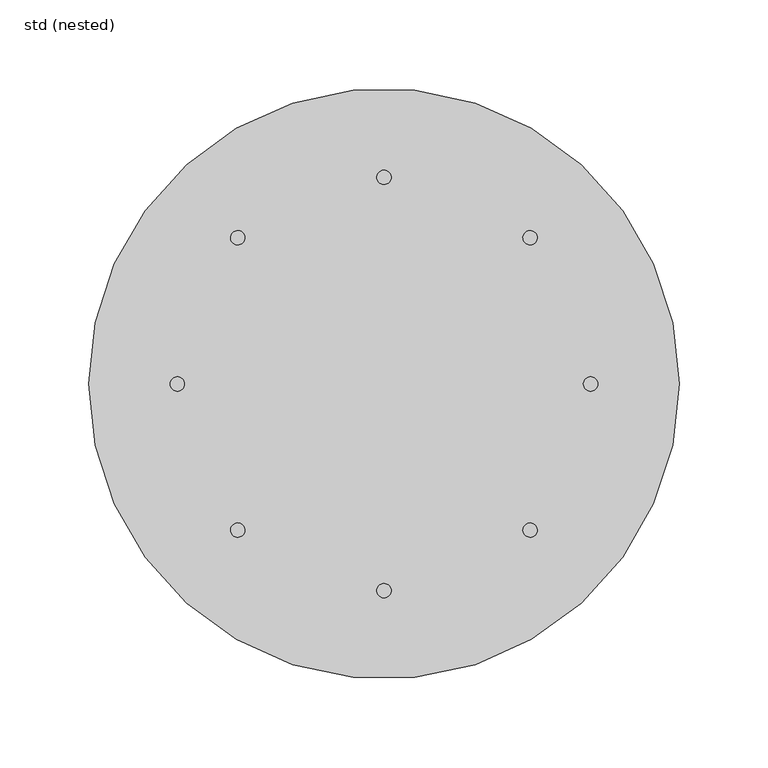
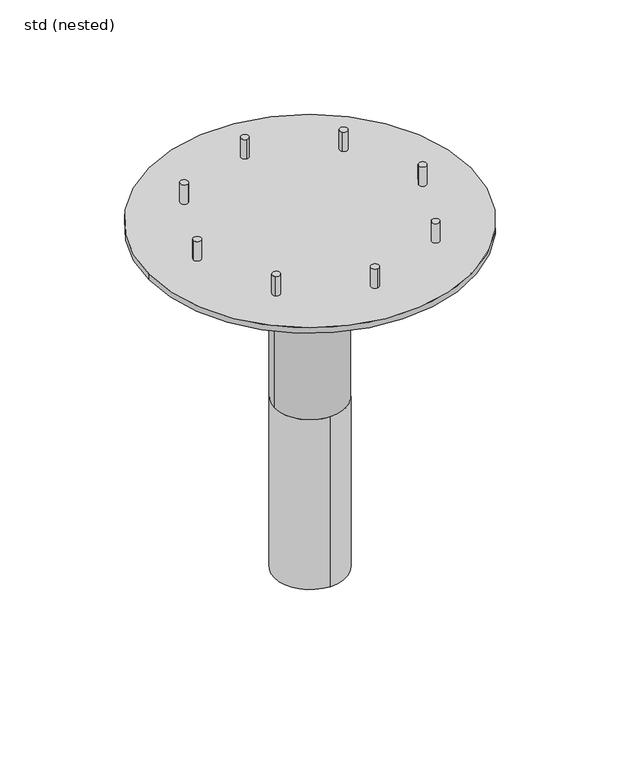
"""IFC4 building model written with IfcOpenShell, lengths in millimetres: sanitary terminal geometry, ZZZ_do not use_PF_ST_bottom part for 1-piece_ACO : std (nested)."""

from ifc_helpers import new_model, si_unit, point, frame, frame_2d, origin, origin_with_axes, place, context, project, spatial, circle_curve, trimmed, segment, composite_curve, outline, extrude, source, transform, mapped, element, save
from ifc_brep_helpers import plane_surface, cylinder_surface, advanced_brep


def std_nested_48636e09(model_context):
    return source(origin(), model_context, "Body", "SolidModel", [
        extrude(outline(composite_curve([segment(trimmed(circle_curve(frame_2d((-82.2011633, 82.2011633)), 4.0), [point((-85.0295904, 85.0295904))], [point((-79.3727362, 79.3727362))], False, "CARTESIAN"), True, "CONTINUOUS"), segment(trimmed(circle_curve(frame_2d((-82.2011633, 82.2011633)), 4.0), [point((-79.3727362, 79.3727362))], [point((-85.0295904, 85.0295904))], False, "CARTESIAN"), True, "CONTINUOUS")], self_intersect=False)), origin_with_axes(), (0.0, 0.0, 1.0), 21.0),
        extrude(outline(composite_curve([segment(trimmed(circle_curve(frame_2d((-116.25, 0.0)), 4.0), [point((-120.25, 0.0))], [point((-112.25, 0.0))], False, "CARTESIAN"), True, "CONTINUOUS"), segment(trimmed(circle_curve(frame_2d((-116.25, 0.0)), 4.0), [point((-112.25, 0.0))], [point((-120.25, 0.0))], False, "CARTESIAN"), True, "CONTINUOUS")], self_intersect=False)), origin_with_axes(), (0.0, 0.0, 1.0), 21.0),
        extrude(outline(composite_curve([segment(trimmed(circle_curve(frame_2d((-82.2011633, -82.2011633)), 4.0), [point((-85.0295904, -85.0295904))], [point((-79.3727362, -79.3727362))], False, "CARTESIAN"), True, "CONTINUOUS"), segment(trimmed(circle_curve(frame_2d((-82.2011633, -82.2011633)), 4.0), [point((-79.3727362, -79.3727362))], [point((-85.0295904, -85.0295904))], False, "CARTESIAN"), True, "CONTINUOUS")], self_intersect=False)), origin_with_axes(), (0.0, 0.0, 1.0), 21.0),
        extrude(outline(composite_curve([segment(trimmed(circle_curve(frame_2d((0.0, -116.25)), 4.0), [point((0.0, -120.25))], [point((0.0, -112.25))], False, "CARTESIAN"), True, "CONTINUOUS"), segment(trimmed(circle_curve(frame_2d((0.0, -116.25)), 4.0), [point((0.0, -112.25))], [point((0.0, -120.25))], False, "CARTESIAN"), True, "CONTINUOUS")], self_intersect=False)), origin_with_axes(), (0.0, 0.0, 1.0), 21.0),
        extrude(outline(composite_curve([segment(trimmed(circle_curve(frame_2d((82.2011633, -82.2011633)), 4.0), [point((85.0295904, -85.0295904))], [point((79.3727362, -79.3727362))], False, "CARTESIAN"), True, "CONTINUOUS"), segment(trimmed(circle_curve(frame_2d((82.2011633, -82.2011633)), 4.0), [point((79.3727362, -79.3727362))], [point((85.0295904, -85.0295904))], False, "CARTESIAN"), True, "CONTINUOUS")], self_intersect=False)), origin_with_axes(), (0.0, 0.0, 1.0), 21.0),
        extrude(outline(composite_curve([segment(trimmed(circle_curve(frame_2d((116.25, 0.0)), 4.0), [point((120.25, 0.0))], [point((112.25, 0.0))], False, "CARTESIAN"), True, "CONTINUOUS"), segment(trimmed(circle_curve(frame_2d((116.25, 0.0)), 4.0), [point((112.25, 0.0))], [point((120.25, 0.0))], False, "CARTESIAN"), True, "CONTINUOUS")], self_intersect=False)), origin_with_axes(), (0.0, 0.0, 1.0), 21.0),
        extrude(outline(composite_curve([segment(trimmed(circle_curve(frame_2d((82.2011633, 82.2011633)), 4.0), [point((85.0295904, 85.0295904))], [point((79.3727362, 79.3727362))], False, "CARTESIAN"), True, "CONTINUOUS"), segment(trimmed(circle_curve(frame_2d((82.2011633, 82.2011633)), 4.0), [point((79.3727362, 79.3727362))], [point((85.0295904, 85.0295904))], False, "CARTESIAN"), True, "CONTINUOUS")], self_intersect=False)), origin_with_axes(), (0.0, 0.0, 1.0), 21.0),
        extrude(outline(composite_curve([segment(trimmed(circle_curve(frame_2d((0.0, 116.25)), 4.0), [point((0.0, 120.25))], [point((0.0, 112.25))], False, "CARTESIAN"), True, "CONTINUOUS"), segment(trimmed(circle_curve(frame_2d((0.0, 116.25)), 4.0), [point((0.0, 112.25))], [point((0.0, 120.25))], False, "CARTESIAN"), True, "CONTINUOUS")], self_intersect=False)), origin_with_axes(), (0.0, 0.0, 1.0), 21.0),
        advanced_brep(
        [(0.0, -36.5, -376.0), (0.0, 36.5, -376.0), (0.0, 36.5, -191.0), (36.5, 0.0, -191.0), (0.0, -36.5, -191.0), (-36.5, 0.0, -191.0), (-36.5, 0.0, -6.0), (36.5, 0.0, -6.0), (-166.0, 0.0, -6.0), (166.0, 0.0, -6.0), (-166.0, 0.0, 0.0), (166.0, 0.0, 0.0)],
        [
            (0, 1, circle_curve(frame((0.0, 0.0, -376.0), z_axis=(0.0, 0.0, -1.0), x_axis=(0.0, 1.0, 0.0)), 36.5)),
            (1, 0, circle_curve(frame((0.0, 0.0, -376.0), z_axis=(0.0, 0.0, -1.0), x_axis=(0.0, 1.0, 0.0)), 36.5)),
            (1, 2),
            (2, 3, circle_curve(frame((0.0, 0.0, -191.0), z_axis=(0.0, 0.0, -1.0), x_axis=(0.0, 1.0, 0.0)), 36.5)),
            (3, 4, circle_curve(frame((0.0, 0.0, -191.0), z_axis=(0.0, 0.0, -1.0), x_axis=(0.0, 1.0, 0.0)), 36.5)),
            (4, 0),
            (4, 5, circle_curve(frame((0.0, 0.0, -191.0), z_axis=(0.0, 0.0, -1.0), x_axis=(0.0, 1.0, 0.0)), 36.5)),
            (5, 2, circle_curve(frame((0.0, 0.0, -191.0), z_axis=(0.0, 0.0, -1.0), x_axis=(0.0, 1.0, 0.0)), 36.5)),
            (6, 5),
            (3, 7),
            (7, 6, circle_curve(frame((0.0, 0.0, -6.0), z_axis=(0.0, 0.0, -1.0), x_axis=(1.0, 0.0, 0.0)), 36.5)),
            (6, 7, circle_curve(frame((0.0, 0.0, -6.0), z_axis=(0.0, 0.0, -1.0), x_axis=(1.0, 0.0, 0.0)), 36.5)),
            (8, 9, circle_curve(frame((0.0, 0.0, -6.0), z_axis=(0.0, 0.0, -1.0), x_axis=(1.0, 0.0, 0.0)), 166.0)),
            (9, 8, circle_curve(frame((0.0, 0.0, -6.0), z_axis=(0.0, 0.0, -1.0), x_axis=(1.0, 0.0, 0.0)), 166.0)),
            (10, 11, circle_curve(origin_with_axes(), 166.0)),
            (11, 10, circle_curve(origin_with_axes(), 166.0)),
            (9, 11),
            (10, 8),
        ],
        [
            plane_surface(frame((0.0, 36.5, -376.0), z_axis=(0.0, 0.0, -1.0), x_axis=(1.0, 0.0, 0.0))),
            cylinder_surface(frame((0.0, 0.0, -191.0), z_axis=(0.0, 0.0, -1.0), x_axis=(0.0, 1.0, 0.0)), 36.5),
            cylinder_surface(frame((0.0, 0.0, -191.0), z_axis=(0.0, 0.0, 1.0), x_axis=(1.0, 0.0, 0.0)), 36.5),
            plane_surface(frame((166.0, 0.0, -6.0), z_axis=(0.0, 0.0, -1.0), x_axis=(0.0, -1.0, 0.0))),
            plane_surface(frame((166.0, 0.0, 0.0), z_axis=(0.0, 0.0, 1.0), x_axis=(0.0, 1.0, 0.0))),
            cylinder_surface(frame((0.0, 0.0, -6.0), z_axis=(0.0, 0.0, 1.0), x_axis=(1.0, 0.0, 0.0)), 166.0),
        ],
        [
            (0, [[1, 2]]),
            (1, [[-2, 3, 4, 5, 6]]),
            (1, [[-1, -6, 7, 8, -3]]),
            (2, [[9, -7, -5, 10, 11]]),
            (2, [[-9, 12, -10, -4, -8]]),
            (3, [[13, 14], [-11, -12]]),
            (4, [[15, 16]]),
            (5, [[-14, 17, -15, 18]]),
            (5, [[-13, -18, -16, -17]]),
        ],
    ),
    ])


if __name__ == "__main__":
    model = new_model("IFC4")
    model_context = context("Model", 3, world=origin())
    ifc_project = project(units=[si_unit("LENGTHUNIT", "METRE", prefix="MILLI")], contexts=[model_context])
    site = spatial("IfcSite", under=ifc_project)
    building = spatial("IfcBuilding", under=site)
    placement = place(None, origin())
    std_nested_shape = std_nested_48636e09(model_context)
    element("IfcSanitaryTerminal", 1, ObjectType="ZZZ_do not use_PF_ST_bottom part for 1-piece_ACO : std (nested)", at=placement, inside=building, context=model_context, shape_type="MappedRepresentation", body=[
        mapped(std_nested_shape, transform((0.0, 0.0, 0.0), x_axis=(1.0, 0.0, 0.0), y_axis=(0.0, 1.0, 0.0), z_axis=(0.0, 0.0, 1.0))),
    ])
    save(model, "model.ifc")
